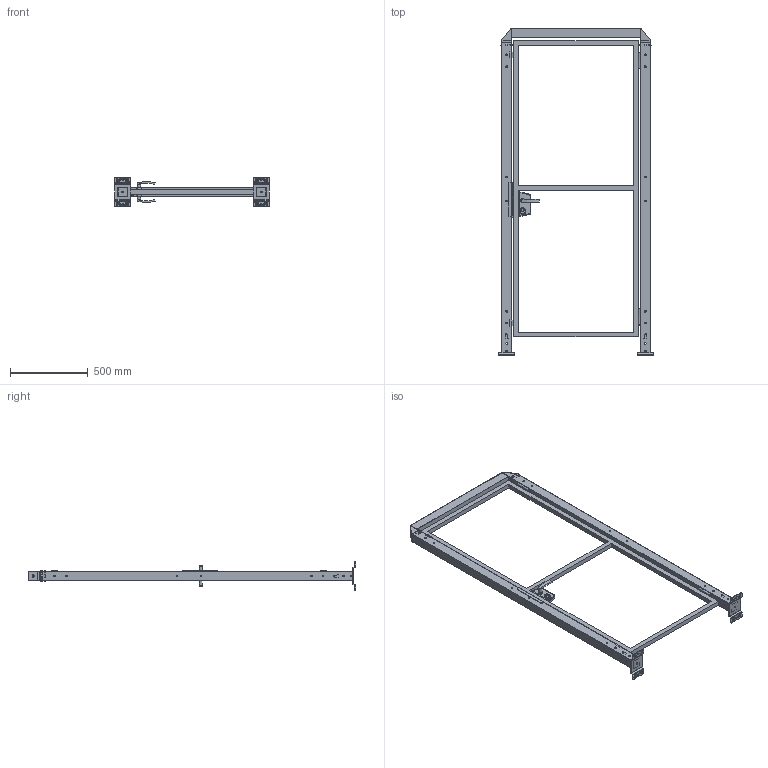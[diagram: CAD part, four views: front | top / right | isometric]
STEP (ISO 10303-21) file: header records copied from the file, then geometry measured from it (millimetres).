
FILE_DESCRIPTION(('STEP AP242'),'1');
FILE_NAME('vfda_bscgd03_08002020.stp','2025-01-23T12:23:22',('TraceParts'),('TraceParts S.A.'),'Spatial InterOp 3D',' ',' ');
FILE_SCHEMA(('AP242_MANAGED_MODEL_BASED_3D_ENGINEERING_MIM_LF {1 0 10303 442 1 1 4}'));
Length unit declared in the file: millimetre
Products named in the file (1): vfda_bscgd03_08002020_1
Bounding box: 990 x 2101 x 192 mm (x, y, z)
Volume: 7959488.3 mm3; surface area: 3299425 mm2
Topology: 13 solids, 13 shells, 1629 faces, 4331 edges, 2766 vertices
Faces by surface type: plane 807, cylinder 554, bspline 194, cone 46, torus 28
Entity records: 67608 total; most frequent: CARTESIAN_POINT 14334, ORIENTED_EDGE 8662, DIRECTION 7987, EDGE_CURVE 4331, VERTEX_POINT 2766, AXIS2_PLACEMENT_3D 2674, LINE 2639, VECTOR 2639
